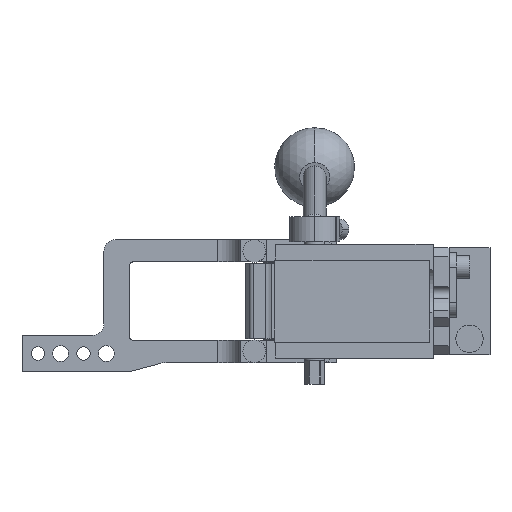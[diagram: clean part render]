
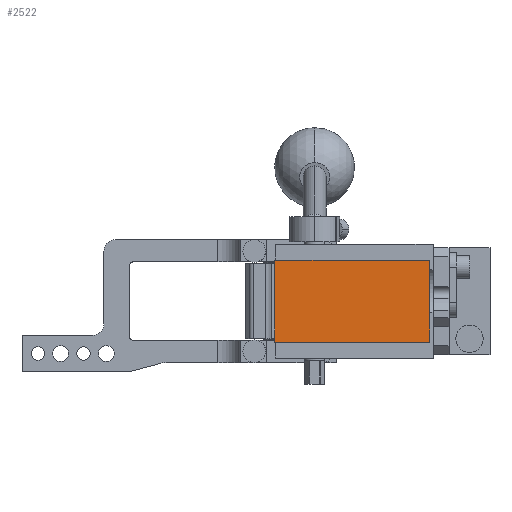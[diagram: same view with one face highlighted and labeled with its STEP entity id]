
A CAD part, front view. The second image highlights one B-rep face of the part: STEP entity #2522.
In plain terms, the highlighted planar face has unit normal (0, -1, 0).
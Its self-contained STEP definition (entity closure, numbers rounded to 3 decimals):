
#364 = ORIENTED_EDGE ( 'NONE', *, *, #10708, .T. ) ;
#596 = VECTOR ( 'NONE', #12425, 1000. ) ;
#1463 = CARTESIAN_POINT ( 'NONE',  ( -6., -233., 18. ) ) ;
#1577 = ORIENTED_EDGE ( 'NONE', *, *, #2490, .T. ) ;
#2383 = CARTESIAN_POINT ( 'NONE',  ( -6., -233., -18. ) ) ;
#2466 = PLANE ( 'NONE',  #11720 ) ;
#2490 = EDGE_CURVE ( 'NONE', #9605, #10293, #4867, .T. ) ;
#2522 = ADVANCED_FACE ( 'NONE', ( #3911 ), #2466, .T. ) ;
#3007 = ORIENTED_EDGE ( 'NONE', *, *, #11133, .T. ) ;
#3433 = CARTESIAN_POINT ( 'NONE',  ( -6., -233., -18. ) ) ;
#3674 = DIRECTION ( 'NONE',  ( 0., -1., 0. ) ) ;
#3751 = CARTESIAN_POINT ( 'NONE',  ( 62., -233., 18. ) ) ;
#3911 = FACE_OUTER_BOUND ( 'NONE', #6137, .T. ) ;
#3942 = VERTEX_POINT ( 'NONE', #3433 ) ;
#4639 = DIRECTION ( 'NONE',  ( 1., 0., 0. ) ) ;
#4867 = LINE ( 'NONE', #3751, #596 ) ;
#6137 = EDGE_LOOP ( 'NONE', ( #364, #3007, #1577, #7279 ) ) ;
#6242 = EDGE_CURVE ( 'NONE', #10293, #14393, #15897, .T. ) ;
#6995 = LINE ( 'NONE', #2383, #13305 ) ;
#7279 = ORIENTED_EDGE ( 'NONE', *, *, #6242, .T. ) ;
#7526 = CARTESIAN_POINT ( 'NONE',  ( 62., -233., -18. ) ) ;
#8348 = CARTESIAN_POINT ( 'NONE',  ( -6., -233., 18. ) ) ;
#8513 = LINE ( 'NONE', #1463, #9146 ) ;
#9146 = VECTOR ( 'NONE', #11348, 1000. ) ;
#9605 = VERTEX_POINT ( 'NONE', #7526 ) ;
#10293 = VERTEX_POINT ( 'NONE', #12822 ) ;
#10708 = EDGE_CURVE ( 'NONE', #14393, #3942, #8513, .T. ) ;
#11133 = EDGE_CURVE ( 'NONE', #3942, #9605, #6995, .T. ) ;
#11348 = DIRECTION ( 'NONE',  ( 0., 0., -1. ) ) ;
#11720 = AXIS2_PLACEMENT_3D ( 'NONE', #12510, #3674, #13623 ) ;
#12425 = DIRECTION ( 'NONE',  ( 0., 0., 1. ) ) ;
#12510 = CARTESIAN_POINT ( 'NONE',  ( 0., -233., 0. ) ) ;
#12822 = CARTESIAN_POINT ( 'NONE',  ( 62., -233., 18. ) ) ;
#13305 = VECTOR ( 'NONE', #4639, 1000. ) ;
#13623 = DIRECTION ( 'NONE',  ( 0., 0., -1. ) ) ;
#14393 = VERTEX_POINT ( 'NONE', #15918 ) ;
#14809 = VECTOR ( 'NONE', #14830, 1000. ) ;
#14830 = DIRECTION ( 'NONE',  ( -1., 0., 0. ) ) ;
#15897 = LINE ( 'NONE', #8348, #14809 ) ;
#15918 = CARTESIAN_POINT ( 'NONE',  ( -6., -233., 18. ) ) ;
